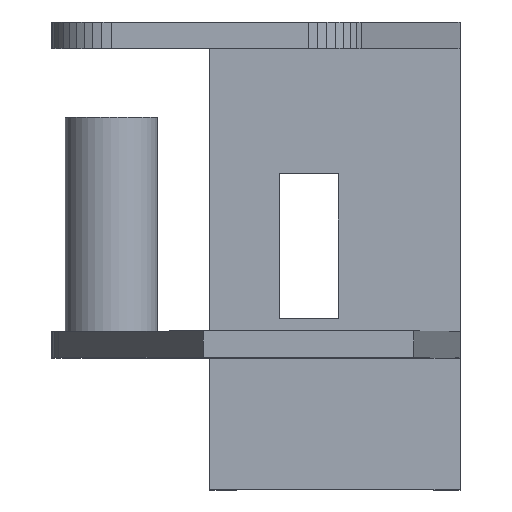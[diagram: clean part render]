
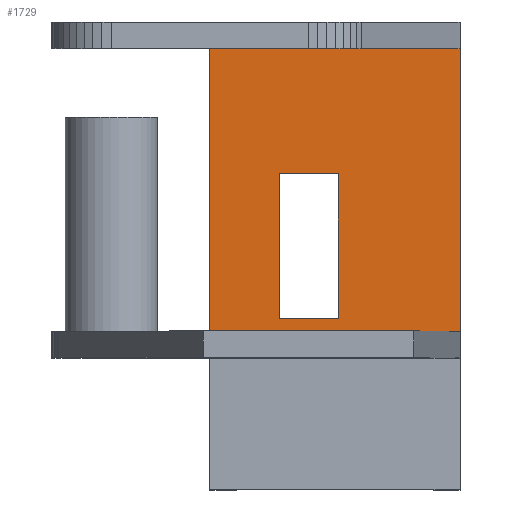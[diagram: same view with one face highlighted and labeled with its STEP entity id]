
A CAD part, top view. The second image highlights one B-rep face of the part: STEP entity #1729.
In plain terms, the highlighted planar face has unit normal (0, 0, 1).
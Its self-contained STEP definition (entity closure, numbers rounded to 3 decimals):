
#126 = PLANE('',#127);
#127 = AXIS2_PLACEMENT_3D('',#128,#129,#130);
#128 = CARTESIAN_POINT('',(-8.108,4.,-2.058));
#129 = DIRECTION('',(-0.,-1.,-0.));
#130 = DIRECTION('',(0.,0.,-1.));
#740 = VERTEX_POINT('',#741);
#741 = CARTESIAN_POINT('',(-15.,4.,-25.5));
#754 = PLANE('',#755);
#755 = AXIS2_PLACEMENT_3D('',#756,#757,#758);
#756 = CARTESIAN_POINT('',(-15.,-20.,-57.));
#757 = DIRECTION('',(1.,0.,0.));
#758 = DIRECTION('',(0.,0.,1.));
#765 = EDGE_CURVE('',#766,#740,#768,.T.);
#766 = VERTEX_POINT('',#767);
#767 = CARTESIAN_POINT('',(23.,4.,-25.5));
#768 = SURFACE_CURVE('',#769,(#773,#779),.PCURVE_S1.);
#769 = LINE('',#770,#771);
#770 = CARTESIAN_POINT('',(-11.554,4.,-25.5));
#771 = VECTOR('',#772,1.);
#772 = DIRECTION('',(-1.,0.,0.));
#773 = PCURVE('',#126,#774);
#774 = DEFINITIONAL_REPRESENTATION('',(#775),#778);
#775 = B_SPLINE_CURVE_WITH_KNOTS('',1,(#776,#777),.UNSPECIFIED.,.F.,.F.,
  (2,2),(-34.554,3.446),.PIECEWISE_BEZIER_KNOTS.);
#776 = CARTESIAN_POINT('',(23.442,31.108));
#777 = CARTESIAN_POINT('',(23.442,-6.892));
#778 = ( GEOMETRIC_REPRESENTATION_CONTEXT(2) 
PARAMETRIC_REPRESENTATION_CONTEXT() REPRESENTATION_CONTEXT('2D SPACE',''
  ) );
#779 = PCURVE('',#780,#785);
#780 = PLANE('',#781);
#781 = AXIS2_PLACEMENT_3D('',#782,#783,#784);
#782 = CARTESIAN_POINT('',(-15.,-20.,-25.5));
#783 = DIRECTION('',(0.,0.,1.));
#784 = DIRECTION('',(1.,0.,0.));
#785 = DEFINITIONAL_REPRESENTATION('',(#786),#789);
#786 = B_SPLINE_CURVE_WITH_KNOTS('',1,(#787,#788),.UNSPECIFIED.,.F.,.F.,
  (2,2),(-34.554,3.446),.PIECEWISE_BEZIER_KNOTS.);
#787 = CARTESIAN_POINT('',(38.,24.));
#788 = CARTESIAN_POINT('',(0.,24.));
#789 = ( GEOMETRIC_REPRESENTATION_CONTEXT(2) 
PARAMETRIC_REPRESENTATION_CONTEXT() REPRESENTATION_CONTEXT('2D SPACE',''
  ) );
#1688 = PLANE('',#1689);
#1689 = AXIS2_PLACEMENT_3D('',#1690,#1691,#1692);
#1690 = CARTESIAN_POINT('',(23.,4.,-30.5));
#1691 = DIRECTION('',(-1.,0.,0.));
#1692 = DIRECTION('',(0.,0.,1.));
#1729 = ADVANCED_FACE('',(#1730,#1803),#780,.T.);
#1730 = FACE_BOUND('',#1731,.T.);
#1731 = EDGE_LOOP('',(#1732,#1755,#1756,#1779));
#1732 = ORIENTED_EDGE('',*,*,#1733,.F.);
#1733 = EDGE_CURVE('',#740,#1734,#1736,.T.);
#1734 = VERTEX_POINT('',#1735);
#1735 = CARTESIAN_POINT('',(-15.,47.,-25.5));
#1736 = SURFACE_CURVE('',#1737,(#1741,#1748),.PCURVE_S1.);
#1737 = LINE('',#1738,#1739);
#1738 = CARTESIAN_POINT('',(-15.,-20.,-25.5));
#1739 = VECTOR('',#1740,1.);
#1740 = DIRECTION('',(0.,1.,0.));
#1741 = PCURVE('',#780,#1742);
#1742 = DEFINITIONAL_REPRESENTATION('',(#1743),#1747);
#1743 = LINE('',#1744,#1745);
#1744 = CARTESIAN_POINT('',(0.,0.));
#1745 = VECTOR('',#1746,1.);
#1746 = DIRECTION('',(0.,1.));
#1747 = ( GEOMETRIC_REPRESENTATION_CONTEXT(2) 
PARAMETRIC_REPRESENTATION_CONTEXT() REPRESENTATION_CONTEXT('2D SPACE',''
  ) );
#1748 = PCURVE('',#754,#1749);
#1749 = DEFINITIONAL_REPRESENTATION('',(#1750),#1754);
#1750 = LINE('',#1751,#1752);
#1751 = CARTESIAN_POINT('',(31.5,0.));
#1752 = VECTOR('',#1753,1.);
#1753 = DIRECTION('',(0.,-1.));
#1754 = ( GEOMETRIC_REPRESENTATION_CONTEXT(2) 
PARAMETRIC_REPRESENTATION_CONTEXT() REPRESENTATION_CONTEXT('2D SPACE',''
  ) );
#1755 = ORIENTED_EDGE('',*,*,#765,.F.);
#1756 = ORIENTED_EDGE('',*,*,#1757,.T.);
#1757 = EDGE_CURVE('',#766,#1758,#1760,.T.);
#1758 = VERTEX_POINT('',#1759);
#1759 = CARTESIAN_POINT('',(23.,47.,-25.5));
#1760 = SURFACE_CURVE('',#1761,(#1765,#1772),.PCURVE_S1.);
#1761 = LINE('',#1762,#1763);
#1762 = CARTESIAN_POINT('',(23.,-20.,-25.5));
#1763 = VECTOR('',#1764,1.);
#1764 = DIRECTION('',(0.,1.,0.));
#1765 = PCURVE('',#780,#1766);
#1766 = DEFINITIONAL_REPRESENTATION('',(#1767),#1771);
#1767 = LINE('',#1768,#1769);
#1768 = CARTESIAN_POINT('',(38.,0.));
#1769 = VECTOR('',#1770,1.);
#1770 = DIRECTION('',(0.,1.));
#1771 = ( GEOMETRIC_REPRESENTATION_CONTEXT(2) 
PARAMETRIC_REPRESENTATION_CONTEXT() REPRESENTATION_CONTEXT('2D SPACE',''
  ) );
#1772 = PCURVE('',#1688,#1773);
#1773 = DEFINITIONAL_REPRESENTATION('',(#1774),#1778);
#1774 = LINE('',#1775,#1776);
#1775 = CARTESIAN_POINT('',(5.,-24.));
#1776 = VECTOR('',#1777,1.);
#1777 = DIRECTION('',(0.,1.));
#1778 = ( GEOMETRIC_REPRESENTATION_CONTEXT(2) 
PARAMETRIC_REPRESENTATION_CONTEXT() REPRESENTATION_CONTEXT('2D SPACE',''
  ) );
#1779 = ORIENTED_EDGE('',*,*,#1780,.T.);
#1780 = EDGE_CURVE('',#1758,#1734,#1781,.T.);
#1781 = SURFACE_CURVE('',#1782,(#1786,#1792),.PCURVE_S1.);
#1782 = LINE('',#1783,#1784);
#1783 = CARTESIAN_POINT('',(-13.769,47.,-25.5));
#1784 = VECTOR('',#1785,1.);
#1785 = DIRECTION('',(-1.,0.,0.));
#1786 = PCURVE('',#780,#1787);
#1787 = DEFINITIONAL_REPRESENTATION('',(#1788),#1791);
#1788 = B_SPLINE_CURVE_WITH_KNOTS('',1,(#1789,#1790),.UNSPECIFIED.,.F.,
  .F.,(2,2),(-36.769,1.231),.PIECEWISE_BEZIER_KNOTS.);
#1789 = CARTESIAN_POINT('',(38.,67.));
#1790 = CARTESIAN_POINT('',(0.,67.));
#1791 = ( GEOMETRIC_REPRESENTATION_CONTEXT(2) 
PARAMETRIC_REPRESENTATION_CONTEXT() REPRESENTATION_CONTEXT('2D SPACE',''
  ) );
#1792 = PCURVE('',#1793,#1798);
#1793 = PLANE('',#1794);
#1794 = AXIS2_PLACEMENT_3D('',#1795,#1796,#1797);
#1795 = CARTESIAN_POINT('',(-12.538,47.,-18.597));
#1796 = DIRECTION('',(-0.,-1.,-0.));
#1797 = DIRECTION('',(0.,0.,-1.));
#1798 = DEFINITIONAL_REPRESENTATION('',(#1799),#1802);
#1799 = B_SPLINE_CURVE_WITH_KNOTS('',1,(#1800,#1801),.UNSPECIFIED.,.F.,
  .F.,(2,2),(-36.769,1.231),.PIECEWISE_BEZIER_KNOTS.);
#1800 = CARTESIAN_POINT('',(6.903,35.538));
#1801 = CARTESIAN_POINT('',(6.903,-2.462));
#1802 = ( GEOMETRIC_REPRESENTATION_CONTEXT(2) 
PARAMETRIC_REPRESENTATION_CONTEXT() REPRESENTATION_CONTEXT('2D SPACE',''
  ) );
#1803 = FACE_BOUND('',#1804,.T.);
#1804 = EDGE_LOOP('',(#1805,#1833,#1859,#1885));
#1805 = ORIENTED_EDGE('',*,*,#1806,.T.);
#1806 = EDGE_CURVE('',#1807,#1809,#1811,.T.);
#1807 = VERTEX_POINT('',#1808);
#1808 = CARTESIAN_POINT('',(4.5,6.,-25.5));
#1809 = VERTEX_POINT('',#1810);
#1810 = CARTESIAN_POINT('',(-4.5,6.,-25.5));
#1811 = SURFACE_CURVE('',#1812,(#1816,#1822),.PCURVE_S1.);
#1812 = LINE('',#1813,#1814);
#1813 = CARTESIAN_POINT('',(-9.75,6.,-25.5));
#1814 = VECTOR('',#1815,1.);
#1815 = DIRECTION('',(-1.,0.,0.));
#1816 = PCURVE('',#780,#1817);
#1817 = DEFINITIONAL_REPRESENTATION('',(#1818),#1821);
#1818 = B_SPLINE_CURVE_WITH_KNOTS('',1,(#1819,#1820),.UNSPECIFIED.,.F.,
  .F.,(2,2),(-14.25,-5.25),.PIECEWISE_BEZIER_KNOTS.);
#1819 = CARTESIAN_POINT('',(19.5,26.));
#1820 = CARTESIAN_POINT('',(10.5,26.));
#1821 = ( GEOMETRIC_REPRESENTATION_CONTEXT(2) 
PARAMETRIC_REPRESENTATION_CONTEXT() REPRESENTATION_CONTEXT('2D SPACE',''
  ) );
#1822 = PCURVE('',#1823,#1828);
#1823 = PLANE('',#1824);
#1824 = AXIS2_PLACEMENT_3D('',#1825,#1826,#1827);
#1825 = CARTESIAN_POINT('',(-4.5,6.,-32.));
#1826 = DIRECTION('',(0.,1.,0.));
#1827 = DIRECTION('',(0.,0.,1.));
#1828 = DEFINITIONAL_REPRESENTATION('',(#1829),#1832);
#1829 = B_SPLINE_CURVE_WITH_KNOTS('',1,(#1830,#1831),.UNSPECIFIED.,.F.,
  .F.,(2,2),(-14.25,-5.25),.PIECEWISE_BEZIER_KNOTS.);
#1830 = CARTESIAN_POINT('',(6.5,9.));
#1831 = CARTESIAN_POINT('',(6.5,0.));
#1832 = ( GEOMETRIC_REPRESENTATION_CONTEXT(2) 
PARAMETRIC_REPRESENTATION_CONTEXT() REPRESENTATION_CONTEXT('2D SPACE',''
  ) );
#1833 = ORIENTED_EDGE('',*,*,#1834,.T.);
#1834 = EDGE_CURVE('',#1809,#1835,#1837,.T.);
#1835 = VERTEX_POINT('',#1836);
#1836 = CARTESIAN_POINT('',(-4.5,28.,-25.5));
#1837 = SURFACE_CURVE('',#1838,(#1842,#1848),.PCURVE_S1.);
#1838 = LINE('',#1839,#1840);
#1839 = CARTESIAN_POINT('',(-4.5,-7.,-25.5));
#1840 = VECTOR('',#1841,1.);
#1841 = DIRECTION('',(0.,1.,0.));
#1842 = PCURVE('',#780,#1843);
#1843 = DEFINITIONAL_REPRESENTATION('',(#1844),#1847);
#1844 = B_SPLINE_CURVE_WITH_KNOTS('',1,(#1845,#1846),.UNSPECIFIED.,.F.,
  .F.,(2,2),(13.,35.),.PIECEWISE_BEZIER_KNOTS.);
#1845 = CARTESIAN_POINT('',(10.5,26.));
#1846 = CARTESIAN_POINT('',(10.5,48.));
#1847 = ( GEOMETRIC_REPRESENTATION_CONTEXT(2) 
PARAMETRIC_REPRESENTATION_CONTEXT() REPRESENTATION_CONTEXT('2D SPACE',''
  ) );
#1848 = PCURVE('',#1849,#1854);
#1849 = PLANE('',#1850);
#1850 = AXIS2_PLACEMENT_3D('',#1851,#1852,#1853);
#1851 = CARTESIAN_POINT('',(-4.5,6.,-32.));
#1852 = DIRECTION('',(1.,0.,0.));
#1853 = DIRECTION('',(0.,0.,1.));
#1854 = DEFINITIONAL_REPRESENTATION('',(#1855),#1858);
#1855 = B_SPLINE_CURVE_WITH_KNOTS('',1,(#1856,#1857),.UNSPECIFIED.,.F.,
  .F.,(2,2),(13.,35.),.PIECEWISE_BEZIER_KNOTS.);
#1856 = CARTESIAN_POINT('',(6.5,0.));
#1857 = CARTESIAN_POINT('',(6.5,-22.));
#1858 = ( GEOMETRIC_REPRESENTATION_CONTEXT(2) 
PARAMETRIC_REPRESENTATION_CONTEXT() REPRESENTATION_CONTEXT('2D SPACE',''
  ) );
#1859 = ORIENTED_EDGE('',*,*,#1860,.F.);
#1860 = EDGE_CURVE('',#1861,#1835,#1863,.T.);
#1861 = VERTEX_POINT('',#1862);
#1862 = CARTESIAN_POINT('',(4.5,28.,-25.5));
#1863 = SURFACE_CURVE('',#1864,(#1868,#1874),.PCURVE_S1.);
#1864 = LINE('',#1865,#1866);
#1865 = CARTESIAN_POINT('',(-9.75,28.,-25.5));
#1866 = VECTOR('',#1867,1.);
#1867 = DIRECTION('',(-1.,0.,0.));
#1868 = PCURVE('',#780,#1869);
#1869 = DEFINITIONAL_REPRESENTATION('',(#1870),#1873);
#1870 = B_SPLINE_CURVE_WITH_KNOTS('',1,(#1871,#1872),.UNSPECIFIED.,.F.,
  .F.,(2,2),(-14.25,-5.25),.PIECEWISE_BEZIER_KNOTS.);
#1871 = CARTESIAN_POINT('',(19.5,48.));
#1872 = CARTESIAN_POINT('',(10.5,48.));
#1873 = ( GEOMETRIC_REPRESENTATION_CONTEXT(2) 
PARAMETRIC_REPRESENTATION_CONTEXT() REPRESENTATION_CONTEXT('2D SPACE',''
  ) );
#1874 = PCURVE('',#1875,#1880);
#1875 = PLANE('',#1876);
#1876 = AXIS2_PLACEMENT_3D('',#1877,#1878,#1879);
#1877 = CARTESIAN_POINT('',(-4.5,28.,-32.));
#1878 = DIRECTION('',(0.,1.,0.));
#1879 = DIRECTION('',(0.,0.,1.));
#1880 = DEFINITIONAL_REPRESENTATION('',(#1881),#1884);
#1881 = B_SPLINE_CURVE_WITH_KNOTS('',1,(#1882,#1883),.UNSPECIFIED.,.F.,
  .F.,(2,2),(-14.25,-5.25),.PIECEWISE_BEZIER_KNOTS.);
#1882 = CARTESIAN_POINT('',(6.5,9.));
#1883 = CARTESIAN_POINT('',(6.5,0.));
#1884 = ( GEOMETRIC_REPRESENTATION_CONTEXT(2) 
PARAMETRIC_REPRESENTATION_CONTEXT() REPRESENTATION_CONTEXT('2D SPACE',''
  ) );
#1885 = ORIENTED_EDGE('',*,*,#1886,.F.);
#1886 = EDGE_CURVE('',#1807,#1861,#1887,.T.);
#1887 = SURFACE_CURVE('',#1888,(#1892,#1898),.PCURVE_S1.);
#1888 = LINE('',#1889,#1890);
#1889 = CARTESIAN_POINT('',(4.5,-7.,-25.5));
#1890 = VECTOR('',#1891,1.);
#1891 = DIRECTION('',(0.,1.,0.));
#1892 = PCURVE('',#780,#1893);
#1893 = DEFINITIONAL_REPRESENTATION('',(#1894),#1897);
#1894 = B_SPLINE_CURVE_WITH_KNOTS('',1,(#1895,#1896),.UNSPECIFIED.,.F.,
  .F.,(2,2),(13.,35.),.PIECEWISE_BEZIER_KNOTS.);
#1895 = CARTESIAN_POINT('',(19.5,26.));
#1896 = CARTESIAN_POINT('',(19.5,48.));
#1897 = ( GEOMETRIC_REPRESENTATION_CONTEXT(2) 
PARAMETRIC_REPRESENTATION_CONTEXT() REPRESENTATION_CONTEXT('2D SPACE',''
  ) );
#1898 = PCURVE('',#1899,#1904);
#1899 = PLANE('',#1900);
#1900 = AXIS2_PLACEMENT_3D('',#1901,#1902,#1903);
#1901 = CARTESIAN_POINT('',(4.5,6.,-32.));
#1902 = DIRECTION('',(1.,0.,0.));
#1903 = DIRECTION('',(0.,0.,1.));
#1904 = DEFINITIONAL_REPRESENTATION('',(#1905),#1908);
#1905 = B_SPLINE_CURVE_WITH_KNOTS('',1,(#1906,#1907),.UNSPECIFIED.,.F.,
  .F.,(2,2),(13.,35.),.PIECEWISE_BEZIER_KNOTS.);
#1906 = CARTESIAN_POINT('',(6.5,0.));
#1907 = CARTESIAN_POINT('',(6.5,-22.));
#1908 = ( GEOMETRIC_REPRESENTATION_CONTEXT(2) 
PARAMETRIC_REPRESENTATION_CONTEXT() REPRESENTATION_CONTEXT('2D SPACE',''
  ) );
